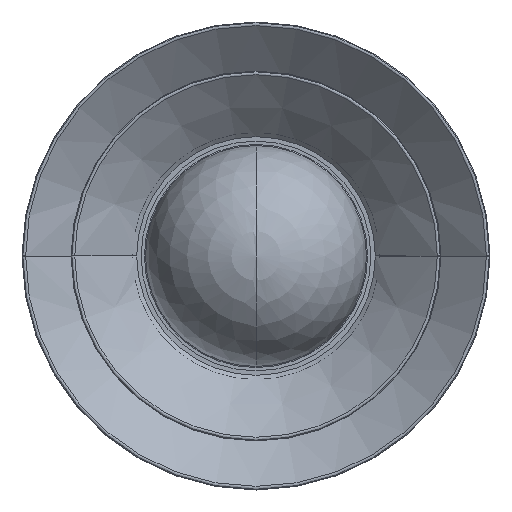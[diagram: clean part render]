
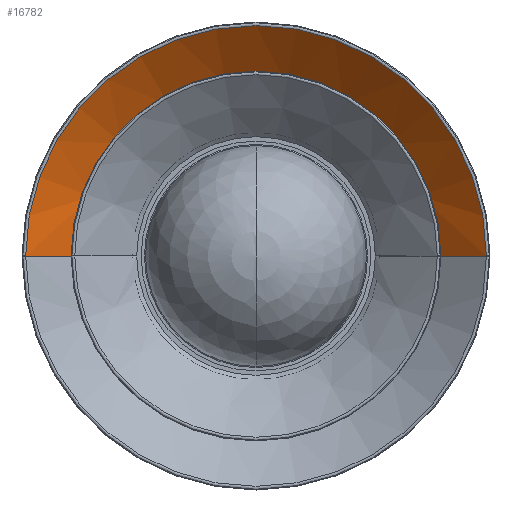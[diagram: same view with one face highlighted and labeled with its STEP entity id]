
A CAD part, front view. The second image highlights one B-rep face of the part: STEP entity #16782.
In plain terms, the highlighted conical face has half-angle 48.576 degrees and reference radius 79.131 mm.
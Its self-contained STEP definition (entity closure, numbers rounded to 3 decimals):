
#16563=CARTESIAN_POINT('',(0.,40.747,0.));
#16564=DIRECTION('',(0.,1.,0.));
#16565=DIRECTION('',(-1.,0.,0.));
#16566=AXIS2_PLACEMENT_3D('',#16563,#16564,#16565);
#16572=CARTESIAN_POINT('',(0.,-3.601,0.));
#16573=DIRECTION('',(0.,-1.,0.));
#16574=DIRECTION('',(1.,0.,0.));
#16575=AXIS2_PLACEMENT_3D('',#16572,#16573,#16574);
#16577=DIRECTION('',(-0.75,0.662,0.));
#16578=VECTOR('',#16577,67.03);
#16579=CARTESIAN_POINT('',(104.26,-3.602,
0.));
#16580=LINE('',#16579,#16578);
#16581=DIRECTION('',(0.75,0.662,0.));
#16582=VECTOR('',#16581,67.03);
#16583=CARTESIAN_POINT('',(-104.26,-3.602,
0.));
#16584=LINE('',#16583,#16582);
#16654=CARTESIAN_POINT('',(-54.,40.747,0.));
#16655=CARTESIAN_POINT('',(54.,40.747,0.));
#16656=VERTEX_POINT('',#16654);
#16657=VERTEX_POINT('',#16655);
#16658=CARTESIAN_POINT('',(-104.261,-3.601,0.));
#16659=CARTESIAN_POINT('',(104.261,-3.601,
0.));
#16660=VERTEX_POINT('',#16658);
#16661=VERTEX_POINT('',#16659);
#16768=CARTESIAN_POINT('',(0.,18.573,0.));
#16769=DIRECTION('',(0.,-1.,0.));
#16770=DIRECTION('',(-1.,0.,0.));
#16771=AXIS2_PLACEMENT_3D('',#16768,#16769,#16770);
#16772=CONICAL_SURFACE('',#16771,79.131,48.576);
#16774=ORIENTED_EDGE('',*,*,#16773,.F.);
#16776=ORIENTED_EDGE('',*,*,#16775,.T.);
#16777=ORIENTED_EDGE('',*,*,#16762,.F.);
#16779=ORIENTED_EDGE('',*,*,#16778,.F.);
#16780=EDGE_LOOP('',(#16774,#16776,#16777,#16779));
#16781=FACE_OUTER_BOUND('',#16780,.F.);
#16782=ADVANCED_FACE('',(#16781),#16772,.F.);
#16567=CIRCLE('',#16566,54.);
#16576=CIRCLE('',#16575,104.261);
#16762=EDGE_CURVE('',#16656,#16657,#16567,.T.);
#16773=EDGE_CURVE('',#16661,#16660,#16576,.T.);
#16775=EDGE_CURVE('',#16661,#16657,#16580,.T.);
#16778=EDGE_CURVE('',#16660,#16656,#16584,.T.);
